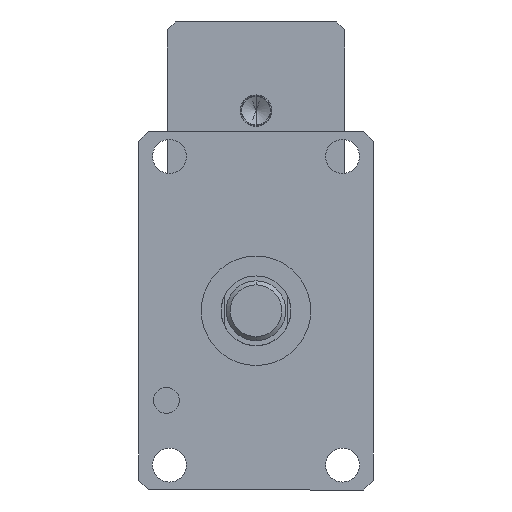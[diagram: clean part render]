
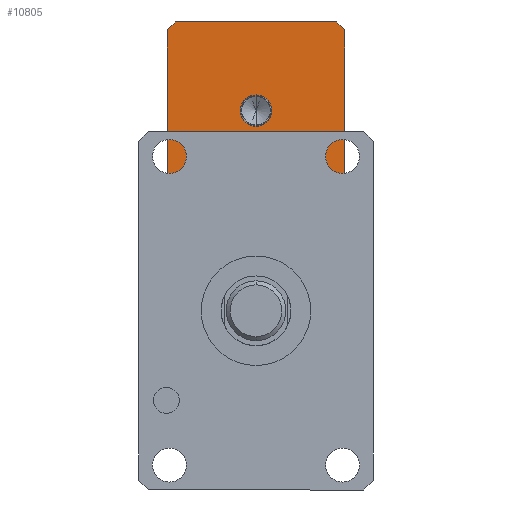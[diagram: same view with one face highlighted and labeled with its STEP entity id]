
A CAD part, front view. The second image highlights one B-rep face of the part: STEP entity #10805.
In plain terms, the highlighted planar face has unit normal (0, -1, 0).
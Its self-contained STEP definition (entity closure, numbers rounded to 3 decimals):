
#183 = LINE ( 'NONE', #3801, #8839 ) ;
#267 = DIRECTION ( 'NONE',  ( 0., -1., 0. ) ) ;
#420 = CARTESIAN_POINT ( 'NONE',  ( -44.5, 270., 141. ) ) ;
#456 = DIRECTION ( 'NONE',  ( 1., 0., 0. ) ) ;
#490 = VERTEX_POINT ( 'NONE', #420 ) ;
#900 = LINE ( 'NONE', #5604, #10930 ) ;
#1015 = EDGE_LOOP ( 'NONE', ( #6889, #10730 ) ) ;
#1257 = VERTEX_POINT ( 'NONE', #12242 ) ;
#1327 = CARTESIAN_POINT ( 'NONE',  ( 40.5, 270., 145. ) ) ;
#1439 = EDGE_CURVE ( 'NONE', #490, #8762, #3974, .T. ) ;
#1693 = EDGE_CURVE ( 'NONE', #6764, #2357, #900, .T. ) ;
#1720 = VERTEX_POINT ( 'NONE', #5830 ) ;
#1773 = EDGE_CURVE ( 'NONE', #11880, #6764, #2614, .T. ) ;
#2082 = CARTESIAN_POINT ( 'NONE',  ( -44.5, 270., 60. ) ) ;
#2357 = VERTEX_POINT ( 'NONE', #3200 ) ;
#2607 = AXIS2_PLACEMENT_3D ( 'NONE', #7340, #4447, #11202 ) ;
#2614 = LINE ( 'NONE', #9747, #5527 ) ;
#2695 = VERTEX_POINT ( 'NONE', #6172 ) ;
#2886 = DIRECTION ( 'NONE',  ( 0., -1., 0. ) ) ;
#2960 = VERTEX_POINT ( 'NONE', #10527 ) ;
#3029 = CARTESIAN_POINT ( 'NONE',  ( 44.5, 270., 141. ) ) ;
#3200 = CARTESIAN_POINT ( 'NONE',  ( 44.5, 270., 60. ) ) ;
#3334 = CARTESIAN_POINT ( 'NONE',  ( 44.5, 270., 145. ) ) ;
#3609 = CARTESIAN_POINT ( 'NONE',  ( -44.5, 270., 60. ) ) ;
#3801 = CARTESIAN_POINT ( 'NONE',  ( -40.5, 270., 145. ) ) ;
#3847 = EDGE_LOOP ( 'NONE', ( #11406, #4810, #8468, #11868, #7071, #4090, #11883, #11995 ) ) ;
#3878 = LINE ( 'NONE', #6333, #6167 ) ;
#3974 = LINE ( 'NONE', #5127, #5967 ) ;
#4090 = ORIENTED_EDGE ( 'NONE', *, *, #9242, .T. ) ;
#4180 = LINE ( 'NONE', #3334, #8709 ) ;
#4440 = CARTESIAN_POINT ( 'NONE',  ( 40.5, 270., 56. ) ) ;
#4447 = DIRECTION ( 'NONE',  ( 0., 1., 0. ) ) ;
#4519 = VECTOR ( 'NONE', #8147, 1000. ) ;
#4810 = ORIENTED_EDGE ( 'NONE', *, *, #9459, .T. ) ;
#5127 = CARTESIAN_POINT ( 'NONE',  ( -44.5, 270., 145. ) ) ;
#5527 = VECTOR ( 'NONE', #6879, 1000. ) ;
#5604 = CARTESIAN_POINT ( 'NONE',  ( 44.5, 270., 60. ) ) ;
#5749 = DIRECTION ( 'NONE',  ( 0.707, 0., 0.707 ) ) ;
#5830 = CARTESIAN_POINT ( 'NONE',  ( -40.5, 270., 145. ) ) ;
#5967 = VECTOR ( 'NONE', #9885, 1000. ) ;
#6112 = CARTESIAN_POINT ( 'NONE',  ( 0., 270., 100.5 ) ) ;
#6167 = VECTOR ( 'NONE', #456, 1000. ) ;
#6172 = CARTESIAN_POINT ( 'NONE',  ( 40.5, 270., 145. ) ) ;
#6333 = CARTESIAN_POINT ( 'NONE',  ( 44.5, 270., 145. ) ) ;
#6369 = PLANE ( 'NONE',  #2607 ) ;
#6734 = DIRECTION ( 'NONE',  ( -0.707, 0., -0.707 ) ) ;
#6764 = VERTEX_POINT ( 'NONE', #4440 ) ;
#6879 = DIRECTION ( 'NONE',  ( 1., 0., 0. ) ) ;
#6889 = ORIENTED_EDGE ( 'NONE', *, *, #9570, .F. ) ;
#7071 = ORIENTED_EDGE ( 'NONE', *, *, #9318, .F. ) ;
#7095 = DIRECTION ( 'NONE',  ( 0., 0., -1. ) ) ;
#7236 = LINE ( 'NONE', #3609, #10053 ) ;
#7340 = CARTESIAN_POINT ( 'NONE',  ( 44.5, 270., 145. ) ) ;
#7531 = VERTEX_POINT ( 'NONE', #3029 ) ;
#7735 = AXIS2_PLACEMENT_3D ( 'NONE', #8682, #2886, #9641 ) ;
#8147 = DIRECTION ( 'NONE',  ( -0.707, 0., 0.707 ) ) ;
#8468 = ORIENTED_EDGE ( 'NONE', *, *, #1773, .T. ) ;
#8601 = EDGE_CURVE ( 'NONE', #1720, #490, #183, .T. ) ;
#8682 = CARTESIAN_POINT ( 'NONE',  ( 0., 270., 100.5 ) ) ;
#8709 = VECTOR ( 'NONE', #11072, 1000. ) ;
#8762 = VERTEX_POINT ( 'NONE', #2082 ) ;
#8839 = VECTOR ( 'NONE', #6734, 1000. ) ;
#9152 = CIRCLE ( 'NONE', #7735, 7.903 ) ;
#9242 = EDGE_CURVE ( 'NONE', #7531, #2695, #9604, .T. ) ;
#9318 = EDGE_CURVE ( 'NONE', #7531, #2357, #4180, .T. ) ;
#9339 = EDGE_CURVE ( 'NONE', #1720, #2695, #3878, .T. ) ;
#9459 = EDGE_CURVE ( 'NONE', #8762, #11880, #7236, .T. ) ;
#9570 = EDGE_CURVE ( 'NONE', #2960, #1257, #9152, .T. ) ;
#9604 = LINE ( 'NONE', #1327, #4519 ) ;
#9641 = DIRECTION ( 'NONE',  ( 0., 0., -1. ) ) ;
#9709 = FACE_BOUND ( 'NONE', #1015, .T. ) ;
#9747 = CARTESIAN_POINT ( 'NONE',  ( 44.5, 270., 56. ) ) ;
#9885 = DIRECTION ( 'NONE',  ( 0., 0., -1. ) ) ;
#10053 = VECTOR ( 'NONE', #10483, 1000. ) ;
#10277 = EDGE_CURVE ( 'NONE', #1257, #2960, #10814, .T. ) ;
#10483 = DIRECTION ( 'NONE',  ( 0.707, 0., -0.707 ) ) ;
#10527 = CARTESIAN_POINT ( 'NONE',  ( 0., 270., 92.597 ) ) ;
#10730 = ORIENTED_EDGE ( 'NONE', *, *, #10277, .F. ) ;
#10805 = ADVANCED_FACE ( 'NONE', ( #9709, #12327 ), #6369, .F. ) ;
#10814 = CIRCLE ( 'NONE', #11101, 7.903 ) ;
#10930 = VECTOR ( 'NONE', #5749, 1000. ) ;
#11072 = DIRECTION ( 'NONE',  ( 0., 0., -1. ) ) ;
#11101 = AXIS2_PLACEMENT_3D ( 'NONE', #6112, #267, #7095 ) ;
#11202 = DIRECTION ( 'NONE',  ( 0., 0., 1. ) ) ;
#11313 = CARTESIAN_POINT ( 'NONE',  ( -40.5, 270., 56. ) ) ;
#11406 = ORIENTED_EDGE ( 'NONE', *, *, #1439, .T. ) ;
#11868 = ORIENTED_EDGE ( 'NONE', *, *, #1693, .T. ) ;
#11880 = VERTEX_POINT ( 'NONE', #11313 ) ;
#11883 = ORIENTED_EDGE ( 'NONE', *, *, #9339, .F. ) ;
#11995 = ORIENTED_EDGE ( 'NONE', *, *, #8601, .T. ) ;
#12242 = CARTESIAN_POINT ( 'NONE',  ( 0., 270., 108.403 ) ) ;
#12327 = FACE_OUTER_BOUND ( 'NONE', #3847, .T. ) ;
